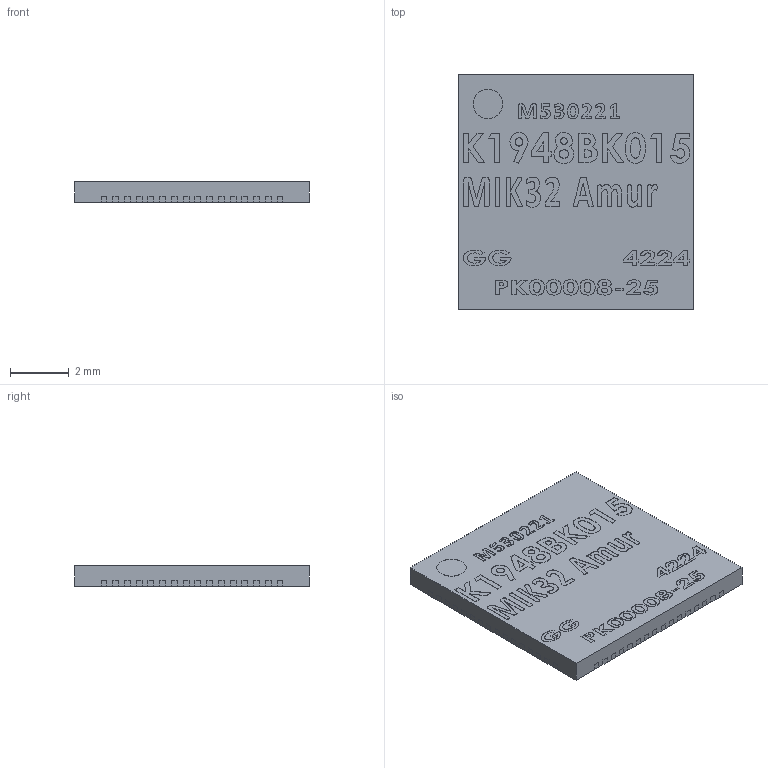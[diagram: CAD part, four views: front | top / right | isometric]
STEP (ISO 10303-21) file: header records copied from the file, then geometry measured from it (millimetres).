
FILE_DESCRIPTION (( 'STEP AP214' ), '1' );
FILE_NAME ('MIK32 Amur.STEP', '2025-11-01T12:05:07', ( '' ), ( '' ), 'SwSTEP 2.0', 'SolidWorks 2025', '' );
FILE_SCHEMA (( 'AUTOMOTIVE_DESIGN' ));
Length unit declared in the file: millimetre
Products named in the file (1): MIK32 Amur
Bounding box: 8 x 8 x 0.7 mm (x, y, z)
Volume: 44.7 mm3; surface area: 152 mm2
Topology: 1 solids, 1 shells, 1030 faces, 2898 edges, 1932 vertices
Faces by surface type: plane 700, bspline 328, cylinder 2
Entity records: 49381 total; most frequent: CARTESIAN_POINT 24989, ORIENTED_EDGE 5796, DIRECTION 3652, EDGE_CURVE 2898, VECTOR 2238, LINE 2238, VERTEX_POINT 1932, EDGE_LOOP 1092
